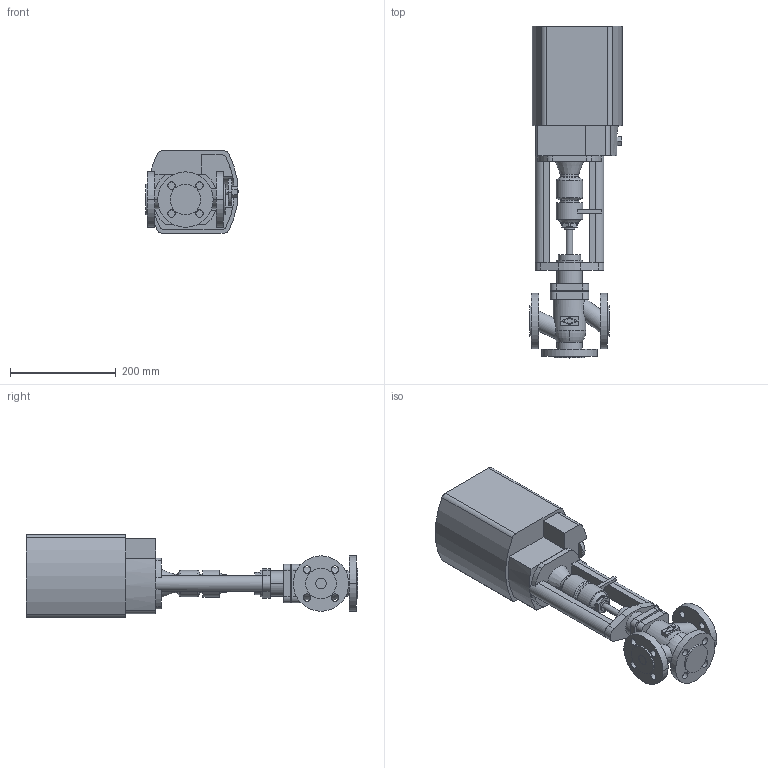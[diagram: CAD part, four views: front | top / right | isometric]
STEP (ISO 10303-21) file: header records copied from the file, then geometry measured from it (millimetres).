
FILE_DESCRIPTION( ( '' ), '1' );
FILE_NAME( 'F:/DE-SHS/TB/OR/04-Sonstiges/daten/files_3d/450-PREMIO-Plus-2G/c000006507.stp', '2017-02-22T12:47:41', ( '' ), ( '' ), ' ', ' ', ' ' );
FILE_SCHEMA( ( 'CONFIG_CONTROL_DESIGN' ) );
Length unit declared in the file: millimetre
Products named in the file (2): 1; 2
Bounding box: 174.7 x 629 x 156 mm (x, y, z)
Volume: 7141604.1 mm3; surface area: 393930.7 mm2
Topology: 2 solids, 2 shells, 244 faces, 629 edges, 417 vertices
Faces by surface type: cylinder 114, plane 112, torus 10, cone 8
Entity records: 8032 total; most frequent: CARTESIAN_POINT 1648, DIRECTION 1412, ORIENTED_EDGE 1258, EDGE_CURVE 629, AXIS2_PLACEMENT_3D 545, VERTEX_POINT 417, LINE 322, VECTOR 322
